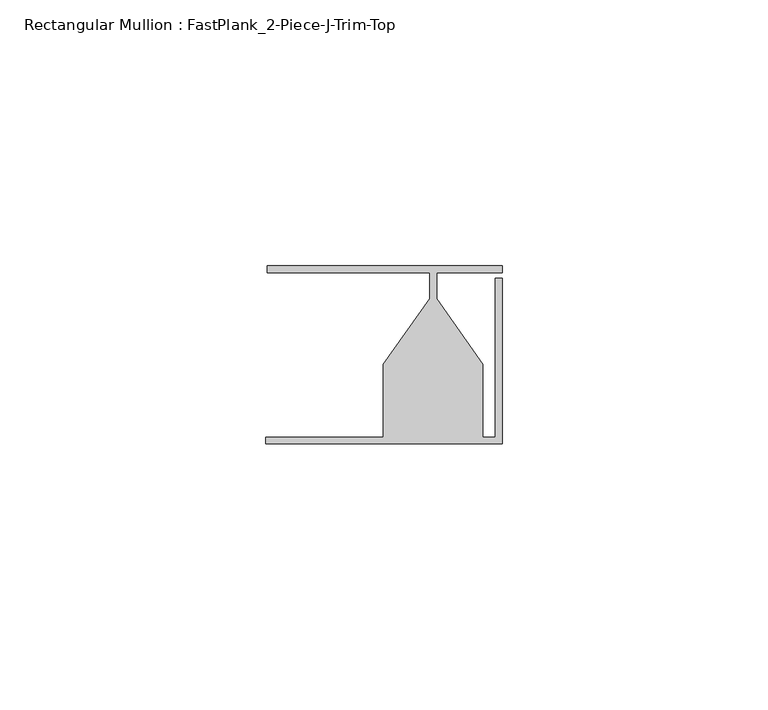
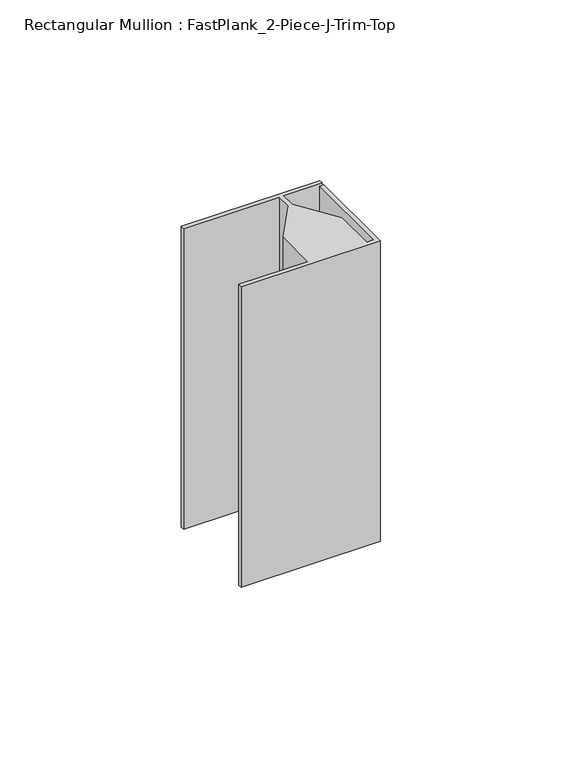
"""IFC4 building model written with IfcOpenShell, lengths in millimetres: member geometry, Rectangular Mullion : FastPlank_2-Piece-J-Trim-Top."""

from ifc_helpers import new_model, si_unit, frame, origin, place, context, project, spatial, polyline, outline, extrude, source, transform, mapped, element, save


def rectangular_mullion_fastplank_2_piece_j_trim_top_ae125532(model_context):
    return source(origin(), model_context, "Body", "SweptSolid", [
        extrude(outline(polyline([(0.0, 11.8625052), (0.0, 10.5618154), (-12.3176464, 10.5618154), (-12.3176464, 5.7038113), (-3.6053348, -6.6543757), (-3.6053348, -20.3381228), (-1.2999974, -20.3381228), (-1.2999974, 9.5619969), (0.0, 9.5619969), (0.0, -21.6381202), (-44.4475015, -21.6381202), (-44.4475015, -20.3381228), (-22.3299553, -20.3381228), (-22.3299553, -6.6543757), (-13.6176438, 5.7038113), (-13.6176438, 10.5618154), (-44.2023711, 10.5618154), (-44.2023711, 11.8625052), (0.0, 11.8625052)])), frame((0.0, 0.0, -101.6), z_axis=(0.0, 0.0, 1.0), x_axis=(1.0, 0.0, 0.0)), (0.0, 0.0, 1.0), 101.6),
    ])


if __name__ == "__main__":
    model = new_model("IFC4")
    model_context = context("Model", 3, world=origin())
    ifc_project = project(units=[si_unit("LENGTHUNIT", "METRE", prefix="MILLI")], contexts=[model_context])
    site = spatial("IfcSite", under=ifc_project)
    building = spatial("IfcBuilding", under=site)
    placement = place(None, origin())
    rectangular_mullion_fastplank_2_piece_j_trim_top_shape = rectangular_mullion_fastplank_2_piece_j_trim_top_ae125532(model_context)
    element("IfcMember", 1, ObjectType="Rectangular Mullion : FastPlank_2-Piece-J-Trim-Top", at=placement, inside=building, context=model_context, shape_type="MappedRepresentation", body=[
        mapped(rectangular_mullion_fastplank_2_piece_j_trim_top_shape, transform((0.0, 0.0, 0.0), x_axis=(1.0, 0.0, 0.0), y_axis=(0.0, 1.0, 0.0), z_axis=(0.0, 0.0, 1.0))),
    ])
    save(model, "model.ifc")
